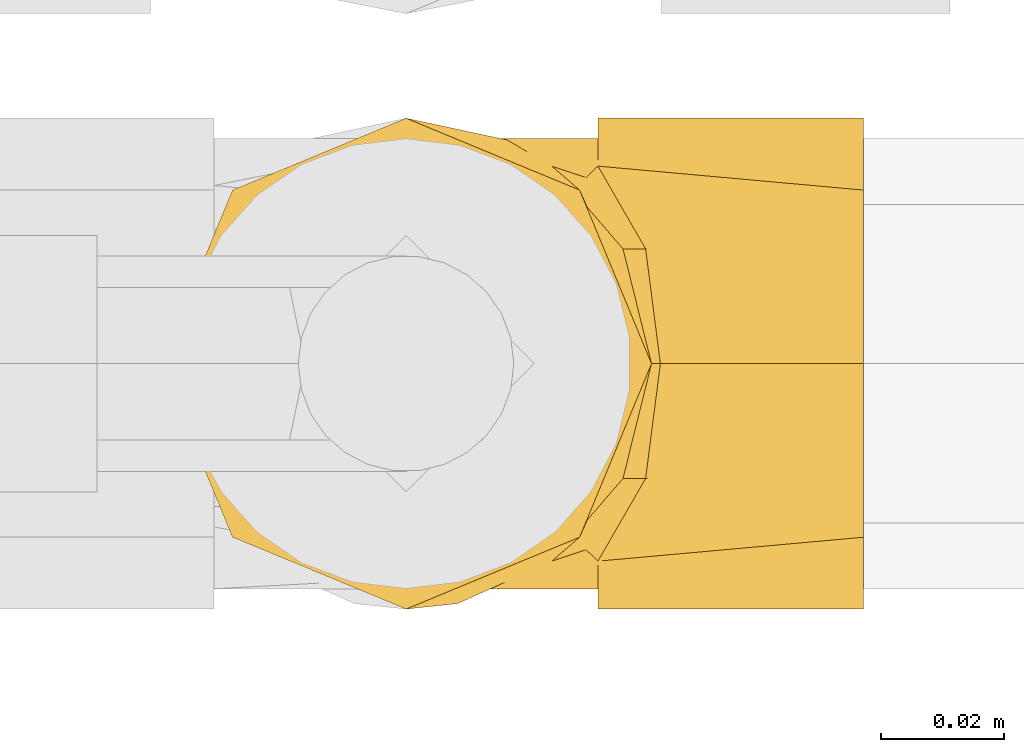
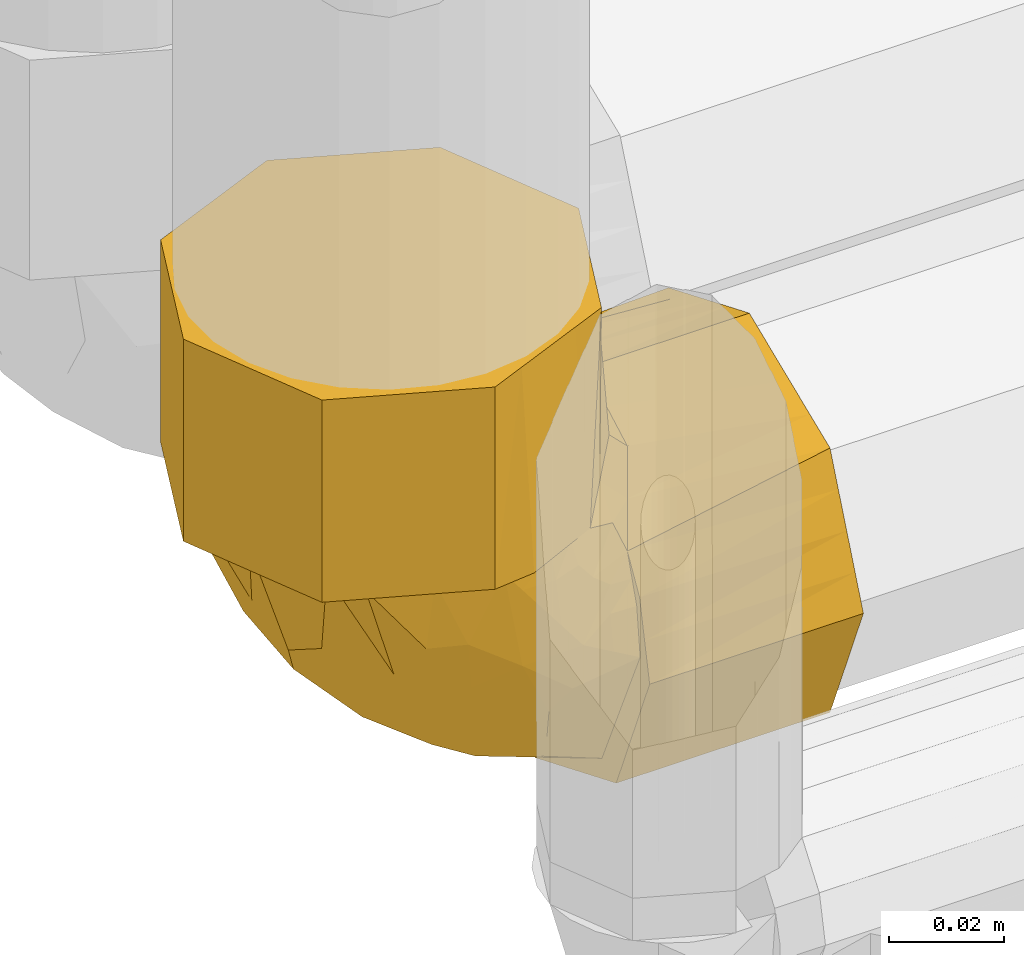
# One storey, part 183 of 652: 1 covering.
"""IFC2X3 building model written with IfcOpenShell, lengths in millimetres."""

from ifc_helpers import new_model, entity, si_unit, converted_unit, direction, frame, origin, place, context, subcontext, project, spatial, faceted_brep, material, type_object, element, save


model = new_model("IFC2X3")

# Units and contexts
model_context = context("Model", 3, precision=0.01, world=frame((0.0, 0.0, 308426.39999999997)), true_north=direction((6.123233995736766e-17, 1.0)))
plan_context = context("Plan", 3, precision=0.01, world=frame((0.0, 0.0, 308426.39999999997)), true_north=direction((6.123233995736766e-17, 1.0)))
body_context = subcontext(model_context, "Body", "Model", "MODEL_VIEW")
ifc_project = project(units=[si_unit("LENGTHUNIT", "METRE", prefix="MILLI"), si_unit("AREAUNIT", "SQUARE_METRE"), si_unit("VOLUMEUNIT", "CUBIC_METRE"), converted_unit("PLANEANGLEUNIT", "DEGREE", entity("IfcPlaneAngleMeasure", 0.017453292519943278), si_unit("PLANEANGLEUNIT", "RADIAN"), dimensions=[0, 0, 0, 0, 0, 0, 0])], contexts=[model_context, plan_context])

# Site, building, storey
site_placement = place(None, origin())
site = spatial("IfcSite", under=ifc_project, at=site_placement, Name="Default", CompositionType="ELEMENT")
building_placement = place(site_placement, origin())
building = spatial("IfcBuilding", under=site, at=building_placement, CompositionType="ELEMENT")
storey_placement = place(building_placement, frame((0.0, 0.0, 1730.6999999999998)))
storey = spatial("IfcBuildingStorey", under=building, at=storey_placement, Name="EG_Produktion_FFB", CompositionType="ELEMENT", Elevation=1730.6999999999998)

# Covering
ifc_material = material(Name="Dämmung - Armaflex-Schlauch")
covering_type = type_object("IfcCoveringType", Name="Rohrdämmung außen:Armaflex-Schlauch", PredefinedType="INSULATION")
covering_placement = place(storey_placement, frame((69458.64672776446, 41483.64517746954, 2639.0371746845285)))
element("IfcCovering", 1, at=covering_placement, inside=storey, type_object=covering_type, material=ifc_material, Name="Rohrdämmung außen:Armaflex-Schlauch", ObjectType="Rohrdämmung außen:Armaflex-Schlauch", PredefinedType="INSULATION", context=body_context, shape_type="Brep", body=[
    faceted_brep([(72.43177223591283, 6.083537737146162, -60.14407617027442), (72.43177223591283, 5.617026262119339, -64.13185283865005), (72.43177223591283, 4.890772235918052, -70.33992920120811), (72.43177223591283, 8.331864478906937, -77.97579246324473), (72.43177223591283, 11.772956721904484, -85.61165572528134), (72.43177223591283, 14.99997398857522, -92.77248166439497), (72.43177223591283, 18.22699125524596, -99.93330760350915), (72.43177223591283, 29.790131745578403, -104.18429126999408), (72.43177223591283, 41.35327223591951, -108.43527493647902), (72.43177223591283, 48.56686113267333, -104.78589932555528), (72.43177223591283, 55.78045002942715, -101.13652371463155), (72.43177223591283, 62.99403892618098, -97.48714810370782), (72.43177223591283, 70.2076278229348, -93.8377724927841), (72.43177223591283, 72.58441730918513, -86.49703027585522), (72.43177223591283, 75.20009477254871, -78.41847973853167), (72.43177223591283, 77.81577223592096, -70.33992920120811), (72.43177223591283, 77.08951820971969, -64.13185283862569), (72.43177223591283, 76.62300673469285, -60.14407617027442), (72.43177223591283, 74.98470757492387, -55.312279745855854), (72.43177223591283, 73.34640841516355, -50.4804833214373), (72.43177223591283, 76.78344421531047, -58.097909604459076), (72.43177223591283, 80.22048001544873, -65.71533588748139), (72.43177223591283, 81.11127223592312, -74.08425000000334), (72.43177223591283, 77.7993156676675, -82.08002046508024), (72.43177223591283, 75.28884793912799, -88.14082570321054), (72.43177223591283, 72.37763579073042, -95.16911355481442), (72.43177223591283, 69.46642364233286, -102.1974014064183), (72.43177223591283, 62.43813579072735, -105.10861355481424), (72.43177223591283, 55.409847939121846, -108.01982570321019), (72.43177223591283, 48.38156008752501, -110.93103785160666), (72.43177223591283, 41.35327223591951, -113.84225000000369), (72.43177223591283, 33.35750170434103, -110.53029340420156), (72.43177223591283, 27.29669653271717, -108.01982570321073), (72.43177223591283, 20.26840868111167, -105.10861355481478), (72.43177223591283, 13.240120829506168, -102.1974014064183), (72.43177223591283, 10.3289086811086, -95.16911355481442), (72.43177223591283, 7.417696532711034, -88.14082570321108), (72.43177223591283, 4.907228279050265, -82.08001919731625), (72.43177223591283, 1.5952722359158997, -74.08425000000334), (72.43177223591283, 3.354446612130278, -65.9082754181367), (72.43177223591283, 5.113620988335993, -57.73230083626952), (72.43177223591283, 9.36013605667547, -50.4804833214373), (72.43177223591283, 7.721836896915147, -55.312279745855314), (115.43752223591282, 69.46642364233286, -45.971098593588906), (115.43752223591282, 62.43813579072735, -43.059886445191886), (115.43752223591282, 55.409847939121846, -40.14867429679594), (115.43752223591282, 49.349042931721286, -37.638206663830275), (115.43752223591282, 41.35327223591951, -34.32625000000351), (115.43752223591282, 33.357503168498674, -37.63820598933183), (115.43752223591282, 27.296696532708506, -40.14867429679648), (115.43752223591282, 20.26840868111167, -43.059886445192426), (115.43752223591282, 13.240120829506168, -45.971098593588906), (115.43752223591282, 10.3289086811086, -52.99938644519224), (115.43752223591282, 7.417696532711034, -60.02767429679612), (115.43752223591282, 4.506484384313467, -67.05596214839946), (115.43752223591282, 1.5952722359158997, -74.08425000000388), (115.43752223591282, 4.506484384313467, -81.11253785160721), (115.43752223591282, 7.417696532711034, -88.14082570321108), (115.43752223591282, 10.3289086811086, -95.16911355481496), (115.43752223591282, 13.240120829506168, -102.1974014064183), (115.43752223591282, 20.26840868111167, -105.10861355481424), (115.43752223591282, 27.29669653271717, -108.01982570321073), (115.43752223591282, 34.32498438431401, -110.93103785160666), (115.43752223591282, 41.35327223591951, -113.84225000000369), (115.43752223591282, 48.38156008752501, -110.93103785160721), (115.43752223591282, 55.409847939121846, -108.01982570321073), (115.43752223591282, 62.43813579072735, -105.10861355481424), (115.43752223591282, 69.46642364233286, -102.1974014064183), (115.43752223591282, 74.48735878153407, -90.07579169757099), (115.43752223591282, 77.7993155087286, -82.08002084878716), (115.43752223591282, 81.11127223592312, -74.08425000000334), (115.43752223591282, 78.20006008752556, -67.05596214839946), (115.43752223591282, 75.28884793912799, -60.02767429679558), (115.43752223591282, 72.37763579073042, -52.9993864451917), (76.29438305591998, 66.64936056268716, -44.712689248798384), (82.55017689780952, 41.35327223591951, -34.32625000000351), (81.35358538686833, 50.65279247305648, -36.63557258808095), (80.1569938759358, 59.952312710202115, -38.94489517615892), (80.75528963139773, 55.3025525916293, -37.790233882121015), (76.29438305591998, 16.057183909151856, -44.712689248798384), (81.35358538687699, 32.05375199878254, -36.63557258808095), (80.1569938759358, 22.754231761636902, -38.94489517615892), (81.99579646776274, 37.04480775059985, -35.39615835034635), (41.35327223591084, 1.5952722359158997, -43.0057500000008), (33.35750183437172, 4.907228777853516, -43.00575000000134), (27.296696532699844, 7.417696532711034, -43.0057500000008), (20.268408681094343, 10.3289086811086, -43.0057500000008), (13.240120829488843, 13.240120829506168, -43.0057500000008), (10.328908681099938, 20.26840868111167, -43.00575000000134), (7.417696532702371, 27.29669653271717, -43.0057500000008), (4.907228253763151, 33.357503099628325, -43.00575000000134), (1.5952722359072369, 41.35327223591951, -43.0057500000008), (4.9072286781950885, 49.34904239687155, -43.0057500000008), (7.417696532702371, 55.409847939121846, -43.0057500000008), (10.328908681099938, 62.43813579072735, -43.0057500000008), (13.240120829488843, 69.46642364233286, -43.0057500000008), (20.268408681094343, 72.37763579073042, -43.0057500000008), (27.296696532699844, 75.28884793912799, -43.0057500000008), (34.32498438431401, 78.20006008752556, -43.0057500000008), (41.35327223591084, 81.11127223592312, -43.0057500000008), (49.52928377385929, 79.3520811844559, -43.0057500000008), (57.70529531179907, 77.59289013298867, -43.0057500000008), (64.95703891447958, 73.34640841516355, -43.0057500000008), (60.125242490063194, 74.98470757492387, -43.0057500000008), (55.293446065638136, 76.62300673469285, -43.0057500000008), (51.30567010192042, 77.08951812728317, -43.0057500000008), (48.201631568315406, 77.45264518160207, -43.00575000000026), (45.09759303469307, 77.81577223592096, -43.0057500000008), (37.699248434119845, 74.48171748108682, -43.0057500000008), (30.300903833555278, 71.14766272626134, -43.0057500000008), (22.90255923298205, 67.8136079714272, -43.0057500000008), (15.504214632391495, 64.47955321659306, -43.0057500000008), (13.378722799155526, 58.69798297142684, -43.00575000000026), (11.253230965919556, 52.91641272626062, -43.0057500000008), (7.0022472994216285, 41.35327223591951, -43.0057500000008), (10.651622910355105, 34.139683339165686, -43.00575000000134), (14.300998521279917, 26.926094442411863, -43.00575000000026), (17.950374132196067, 19.712505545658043, -43.0057500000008), (21.599749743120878, 12.498916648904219, -43.0057500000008), (27.474210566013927, 10.596880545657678, -43.0057500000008), (33.34867138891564, 8.694844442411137, -43.0057500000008), (45.09759303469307, 4.890772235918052, -43.0057500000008), (48.2016315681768, 5.253899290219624, -43.00575000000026), (51.30567010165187, 5.617026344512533, -43.00575000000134), (55.293446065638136, 6.083537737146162, -43.0057500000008), (60.125242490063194, 7.721836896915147, -43.0057500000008), (64.95703891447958, 9.36013605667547, -43.0057500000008), (57.339633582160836, 5.923104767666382, -43.00575000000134), (49.72222824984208, 2.486073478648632, -43.0057500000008), (34.32498438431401, 78.20006008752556, 0.0), (27.296696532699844, 75.28884793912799, 0.0), (20.268408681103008, 72.37763579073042, 0.0), (13.240120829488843, 69.46642364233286, 0.0), (8.21918556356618, 57.34481362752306, 0.0), (4.90722889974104, 49.349042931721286, 0.0), (1.5952722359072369, 41.35327223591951, 0.0), (4.506484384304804, 34.32498438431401, 0.0), (7.417696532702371, 27.29669653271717, 0.0), (10.328908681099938, 20.26840868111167, 0.0), (13.240120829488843, 13.240120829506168, 0.0), (20.268408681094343, 10.3289086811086, 0.0), (27.296696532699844, 7.417696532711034, 0.0), (34.32498438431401, 4.506484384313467, 0.0), (41.35327223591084, 1.5952722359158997, 0.0), (48.38156008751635, 4.506484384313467, 0.0), (55.409847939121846, 7.417696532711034, 0.0), (62.43813579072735, 10.3289086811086, 0.0), (69.46642364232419, 13.240120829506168, 0.0), (72.37763579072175, 20.26840868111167, 0.0), (75.28884793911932, 27.29669653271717, 0.0), (77.79931550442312, 33.35750137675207, 0.0), (81.11127223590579, 41.35327223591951, 0.0), (77.79931623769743, 49.34904132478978, 0.0), (75.28884793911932, 55.409847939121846, 0.0), (72.37763579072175, 62.43813579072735, 0.0), (69.46642364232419, 69.46642364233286, 0.0), (62.43813579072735, 72.37763579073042, 0.0), (55.409847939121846, 75.28884793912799, 0.0), (49.34904308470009, 77.7993155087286, 0.0), (41.35327223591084, 81.11127223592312, 0.0), (81.11127223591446, 41.35327223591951, -32.887345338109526), (78.80194964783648, 50.65279247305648, -34.08393684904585), (76.4926270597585, 59.95231271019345, -35.28052835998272), (78.97145557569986, 49.97020104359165, -33.99610617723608), (70.72483298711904, 66.6493605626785, -39.14313917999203), (70.72483298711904, 16.057183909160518, -39.14313917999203), (78.80194964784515, 32.05375199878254, -34.08393684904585), (76.4926270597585, 22.754231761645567, -35.28052835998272), (78.97145557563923, 32.736343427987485, -33.99610617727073), (80.04136390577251, 37.0448078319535, -33.4417257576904), (28.191891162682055, 70.58570371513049, -58.157983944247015), (56.18214307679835, 70.84194655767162, -86.24095977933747), (50.651839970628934, 74.32849001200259, -75.4407457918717), (60.99290399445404, 77.81577223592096, -63.77170858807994), (57.90068245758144, 77.00211431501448, -71.00987826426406), (45.89691656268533, 76.88844933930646, -60.331775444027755), (36.82479147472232, 68.42603953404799, -74.68952203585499), (51.80452200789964, 65.42597622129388, -90.56777273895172), (23.738422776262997, 41.35327223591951, -77.92193606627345), (18.343722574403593, 49.423246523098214, -68.63523148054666), (34.50848979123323, 49.76955400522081, -87.87776584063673), (60.258434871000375, 41.35327223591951, -100.80694021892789), (53.72396469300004, 50.78343827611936, -100.51907102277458), (33.52688276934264, 62.18567496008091, -79.21114219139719), (46.9221287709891, 77.81577223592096, -45.38936071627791), (48.746664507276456, 77.81577223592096, -47.77297143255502), (52.39573597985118, 77.81577223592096, -52.54019286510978), (56.69431998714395, 77.81577223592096, -58.15595072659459), (23.195268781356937, 65.52092940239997, -60.49728396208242), (44.195419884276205, 59.20806438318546, -90.87485767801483), (58.02828772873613, 60.22410783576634, -98.1023884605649), (22.772412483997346, 58.19488232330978, -69.59848600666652), (30.828832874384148, 55.853767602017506, -81.4962762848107), (15.370335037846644, 41.35327223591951, -60.463843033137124), (14.815761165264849, 41.35327223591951, -59.306852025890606), (48.08509750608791, 41.35327223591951, -93.17860550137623), (42.12089419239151, 41.35327223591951, -89.44118018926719), (35.911760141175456, 41.35327223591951, -85.55027078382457), (14.939393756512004, 55.751720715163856, -57.6829444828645), (36.834059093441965, 73.79715375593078, -62.3531563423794), (57.276333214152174, 41.35327223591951, -98.93822756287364), (67.17975226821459, 77.81577223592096, -67.32420901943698), (66.82609985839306, 77.16648559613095, -59.54771910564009), (67.53281751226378, 75.95462844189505, -54.28952280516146), (81.80380630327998, 41.35327223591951, -33.63371593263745), (63.9783655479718, 76.0357200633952, -51.459156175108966), (70.52863875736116, 71.49570768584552, -44.90888377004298), (61.14799970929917, 75.95462822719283, -47.90470403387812), (55.91882115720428, 77.15152320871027, -48.51664173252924), (66.82609985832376, 5.540058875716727, -59.54771910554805), (67.17975226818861, 4.890772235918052, -67.3242090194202), (70.52863885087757, 11.210837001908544, -44.90888341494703), (63.97836630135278, 6.670824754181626, -51.459155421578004), (67.53281753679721, 6.7519160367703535, -54.28952279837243), (56.69431998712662, 4.890772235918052, -58.15595072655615), (61.14799971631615, 6.7519162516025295, -47.904704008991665), (55.918821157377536, 5.555021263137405, -48.51664173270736), (48.7466645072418, 4.890772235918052, -47.77297143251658), (60.99290399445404, 4.890772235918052, -63.7717085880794), (46.92212877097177, 4.890772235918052, -45.38936071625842), (52.395735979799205, 4.890772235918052, -52.54019286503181), (55.82565961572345, 7.90055709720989, -77.88884430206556), (57.28959429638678, 11.144292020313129, -85.68390575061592), (39.02450620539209, 6.907352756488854, -57.202126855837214), (32.06346726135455, 31.821832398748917, -85.21783817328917), (35.56661217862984, 16.763579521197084, -76.99963686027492), (40.99370372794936, 9.117077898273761, -68.28685011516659), (28.53498924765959, 14.598856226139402, -64.58632217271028), (49.33889122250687, 5.892051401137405, -64.72447259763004), (59.448940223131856, 5.886693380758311, -73.03938972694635), (47.62726014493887, 15.338625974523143, -85.6554499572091), (28.791268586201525, 22.521459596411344, -75.83338581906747), (17.08473225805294, 31.617498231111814, -65.65295551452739), (18.64017595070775, 22.69544496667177, -60.45142062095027), (32.10245728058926, 9.61944594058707, -57.306708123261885), (50.634728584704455, 24.56861790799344, -95.65270419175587), (40.67615020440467, 21.067876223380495, -86.33050767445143), (59.44227846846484, 16.734184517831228, -94.01862068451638), (46.78958221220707, 33.08278710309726, -97.03201021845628)], [[[0, 1, 2, 3, 4, 5, 6, 7, 8, 9, 10, 11, 12, 13, 14, 15, 16, 17, 18, 19, 20, 21, 22, 23, 24, 25, 26, 27, 28, 29, 30, 31, 32, 33, 34, 35, 36, 37, 38, 39, 40, 41, 42]], [[43, 44, 45, 46, 47, 48, 49, 50, 51, 52, 53, 54, 55, 56, 57, 58, 59, 60, 61, 62, 63, 64, 65, 66, 67, 68, 69, 70, 71, 72, 73]], [[44, 43, 74]], [[75, 47, 46]], [[76, 75, 46]], [[45, 77, 78, 76]], [[44, 74, 77]], [[72, 20, 73]], [[71, 21, 72]], [[43, 19, 74]], [[77, 45, 44]], [[72, 21, 20]], [[71, 22, 21]], [[45, 76, 46]], [[71, 70, 22]], [[73, 20, 19]], [[19, 43, 73]], [[23, 22, 70, 69, 68, 67, 26, 25, 24]], [[26, 67, 66, 65, 64, 63, 30, 29, 28, 27]], [[38, 37, 36, 35, 34, 59, 58, 57, 56, 55]], [[30, 63, 62, 61, 60, 59, 34, 33, 32, 31]], [[53, 40, 39]], [[50, 79, 51]], [[39, 54, 53]], [[41, 52, 51]], [[40, 52, 41]], [[80, 49, 48]], [[49, 80, 81]], [[55, 54, 38]], [[48, 75, 82, 80]], [[38, 54, 39]], [[79, 50, 81]], [[52, 40, 53]], [[48, 47, 75]], [[50, 49, 81]], [[79, 41, 51]], [[83, 84, 85, 86, 87, 88, 89, 90, 91, 92, 93, 94, 95, 96, 97, 98, 99, 100, 101, 102, 103, 104, 105, 106, 107, 108, 109, 110, 111, 112, 113, 114, 115, 116, 117, 118, 119, 120, 121, 122, 123, 124, 125, 126, 127, 128]], [[129, 130, 131, 132, 133, 134, 135, 136, 137, 138, 139, 140, 141, 142, 143, 144, 145, 146, 147, 148, 149, 150, 151, 152, 153, 154, 155, 156, 157, 158, 159]], [[135, 134, 133, 132, 95, 94, 93, 92, 91]], [[95, 132, 131, 130, 129, 159, 99, 98, 97, 96]], [[159, 158, 157, 100]], [[101, 156, 102]], [[99, 159, 100]], [[101, 100, 157]], [[152, 151, 160]], [[102, 156, 155]], [[153, 161, 162]], [[161, 153, 152]], [[152, 160, 163, 161]], [[154, 164, 155]], [[164, 154, 162]], [[156, 101, 157]], [[154, 153, 162]], [[164, 102, 155]], [[148, 147, 165]], [[149, 166, 150]], [[166, 149, 167]], [[160, 151, 150]], [[148, 165, 167]], [[145, 127, 146]], [[144, 128, 145]], [[147, 126, 165]], [[167, 149, 148]], [[145, 128, 127]], [[144, 83, 128]], [[150, 166, 168, 169, 160]], [[144, 143, 83]], [[146, 127, 126]], [[126, 147, 146]], [[91, 90, 89, 88, 87, 139, 138, 137, 136, 135]], [[141, 140, 139, 87, 86, 85, 84, 83, 143, 142]], [[109, 170, 110]], [[13, 171, 172]], [[14, 13, 172]], [[173, 174, 175]], [[176, 171, 177]], [[15, 14, 174]], [[178, 179, 180]], [[9, 181, 182]], [[172, 175, 174]], [[13, 12, 171]], [[12, 11, 177]], [[176, 177, 183]], [[175, 107, 184, 185, 186, 187, 173]], [[188, 170, 176]], [[176, 172, 171]], [[189, 190, 182]], [[11, 10, 190]], [[177, 11, 190]], [[170, 188, 110]], [[191, 183, 192]], [[179, 178, 193, 194]], [[182, 190, 10]], [[182, 195, 180]], [[177, 190, 189]], [[182, 10, 9]], [[180, 195, 196, 197, 178]], [[177, 189, 183]], [[177, 171, 12]], [[113, 179, 194]], [[189, 182, 180]], [[112, 111, 198, 113]], [[198, 111, 188]], [[194, 114, 113]], [[179, 191, 192]], [[199, 175, 172]], [[199, 108, 175]], [[172, 176, 199]], [[188, 111, 110]], [[199, 170, 109]], [[183, 188, 176]], [[108, 199, 109]], [[188, 191, 198]], [[108, 107, 175]], [[176, 170, 199]], [[192, 189, 180]], [[188, 183, 191]], [[189, 192, 183]], [[179, 192, 180]], [[181, 9, 8]], [[182, 181, 200, 195]], [[191, 179, 198]], [[179, 113, 198]], [[174, 173, 201, 15]], [[172, 174, 14]], [[173, 202, 201]], [[173, 187, 203]], [[18, 203, 19]], [[201, 17, 16, 15]], [[204, 76, 163]], [[74, 164, 162, 77]], [[163, 76, 78, 77, 162, 161]], [[205, 102, 206]], [[206, 164, 74]], [[106, 105, 104, 185, 184, 107]], [[205, 207, 102]], [[186, 185, 208, 187]], [[204, 75, 76]], [[163, 160, 204]], [[205, 206, 19]], [[164, 206, 102]], [[203, 205, 19]], [[19, 206, 74]], [[201, 202, 17]], [[17, 202, 18]], [[203, 202, 173]], [[18, 202, 203]], [[102, 207, 103]], [[103, 208, 104]], [[207, 205, 187]], [[208, 103, 207]], [[208, 185, 104]], [[187, 208, 207]], [[203, 187, 205]], [[204, 160, 169]], [[209, 210, 0]], [[169, 168, 166, 167, 81, 80, 82]], [[41, 211, 212]], [[1, 0, 210, 2]], [[213, 212, 214]], [[204, 169, 82]], [[79, 165, 211]], [[126, 125, 215]], [[212, 211, 126]], [[204, 82, 75]], [[167, 165, 79, 81]], [[216, 124, 217]], [[218, 209, 213]], [[122, 121, 219, 217, 124, 123]], [[41, 79, 211]], [[211, 165, 126]], [[209, 0, 42]], [[125, 124, 216]], [[126, 215, 212]], [[125, 216, 215]], [[220, 214, 216, 217]], [[213, 42, 41]], [[212, 213, 41]], [[210, 209, 218]], [[214, 212, 215]], [[209, 42, 213]], [[215, 216, 214]], [[218, 213, 214]], [[4, 221, 222]], [[223, 121, 120]], [[224, 178, 197, 196]], [[225, 226, 227]], [[228, 226, 221]], [[229, 218, 228]], [[222, 226, 230]], [[231, 232, 224]], [[3, 229, 221]], [[233, 232, 231]], [[234, 223, 120]], [[229, 2, 210, 218]], [[224, 235, 236]], [[4, 3, 221]], [[228, 218, 214, 220, 217, 219, 121]], [[237, 222, 230]], [[6, 235, 7]], [[235, 6, 237]], [[238, 200, 7]], [[228, 223, 226]], [[224, 238, 235]], [[234, 226, 223]], [[227, 117, 233]], [[193, 232, 115]], [[224, 232, 178]], [[115, 114, 194, 193]], [[235, 237, 236]], [[238, 224, 196]], [[226, 222, 221]], [[222, 237, 5]], [[5, 237, 6]], [[5, 4, 222]], [[237, 230, 236]], [[7, 200, 181, 8]], [[7, 235, 238]], [[238, 196, 195, 200]], [[227, 118, 117]], [[193, 178, 232]], [[231, 236, 225]], [[233, 117, 116]], [[232, 233, 116]], [[227, 233, 231]], [[229, 3, 2]], [[228, 221, 229]], [[121, 223, 228]], [[119, 118, 234, 120]], [[234, 118, 227]], [[227, 226, 234]], [[232, 116, 115]], [[225, 236, 230]], [[224, 236, 231]], [[226, 225, 230]], [[231, 225, 227]]]),
])

save(model, "model.ifc")
